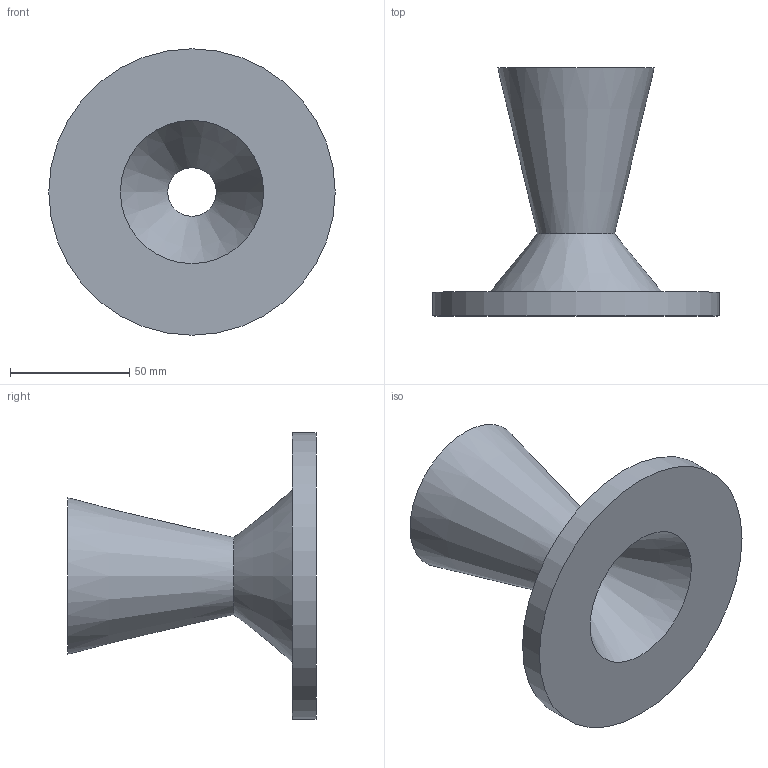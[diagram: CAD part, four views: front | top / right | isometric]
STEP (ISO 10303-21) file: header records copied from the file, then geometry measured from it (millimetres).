
FILE_DESCRIPTION(('Open CASCADE Model'),'2;1');
FILE_NAME('Open CASCADE Shape Model','2026-10-19T02:06:55',('Author'),( 'Open CASCADE'),'Open CASCADE STEP processor 7.9','Open CASCADE 7.9' ,'Unknown');
FILE_SCHEMA(('AUTOMOTIVE_DESIGN { 1 0 10303 214 1 1 1 1 }'));
Length unit declared in the file: millimetre
Products named in the file (1): Open CASCADE STEP translator 7.9 2
Bounding box: 120 x 103.89 x 120 mm (x, y, z)
Volume: 167267.3 mm3; surface area: 50194 mm2
Topology: 1 solids, 1 shells, 8 faces, 13 edges, 8 vertices
Faces by surface type: cone 4, plane 3, cylinder 1
Full cylindrical faces by diameter (mm): 120 x1
Entity records: 372 total; most frequent: DIRECTION 65, CARTESIAN_POINT 56, ORIENTED_EDGE 26, PCURVE 26, DEFINITIONAL_REPRESENTATION 26, LINE 25, VECTOR 25, AXIS2_PLACEMENT_3D 17
